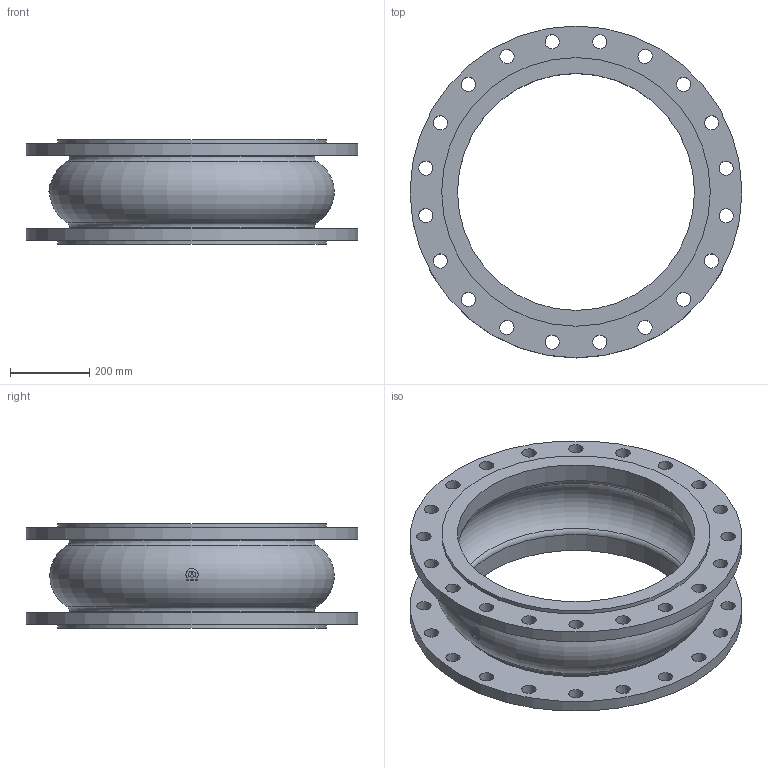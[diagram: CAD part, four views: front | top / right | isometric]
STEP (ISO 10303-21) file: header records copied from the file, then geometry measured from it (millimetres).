
FILE_DESCRIPTION(('STEP AP203'), '1');
FILE_NAME('Êîìïåíñàòîð KMS DN600 PN16_L265', '', ('UNSPECIFIED'), ('UNSPECIFIED'), 'ASCON STEP Converter 1.6', 'ASCON Math Kernel', '');
FILE_SCHEMA(('CONFIG_CONTROL_DESIGN'));
Length unit declared in the file: millimetre
Bounding box: 840 x 840 x 265 mm (x, y, z)
Volume: 21376168 mm3; surface area: 2381978.1 mm2
Topology: 1 solids, 1 shells, 77 faces, 196 edges, 128 vertices
Faces by surface type: cylinder 55, plane 13, torus 9
Full cylindrical faces by diameter (mm): 36 x40, 600 x2, 620 x2, 680 x2, 840 x2
Entity records: 3822 total; most frequent: CARTESIAN_POINT 1297, DIRECTION 382, ORIENTED_EDGE 284, EDGE_LOOP 220, AXIS2_PLACEMENT_3D 184, EDGE_CURVE 142, VERTEX_POINT 128, FACE_BOUND 112
